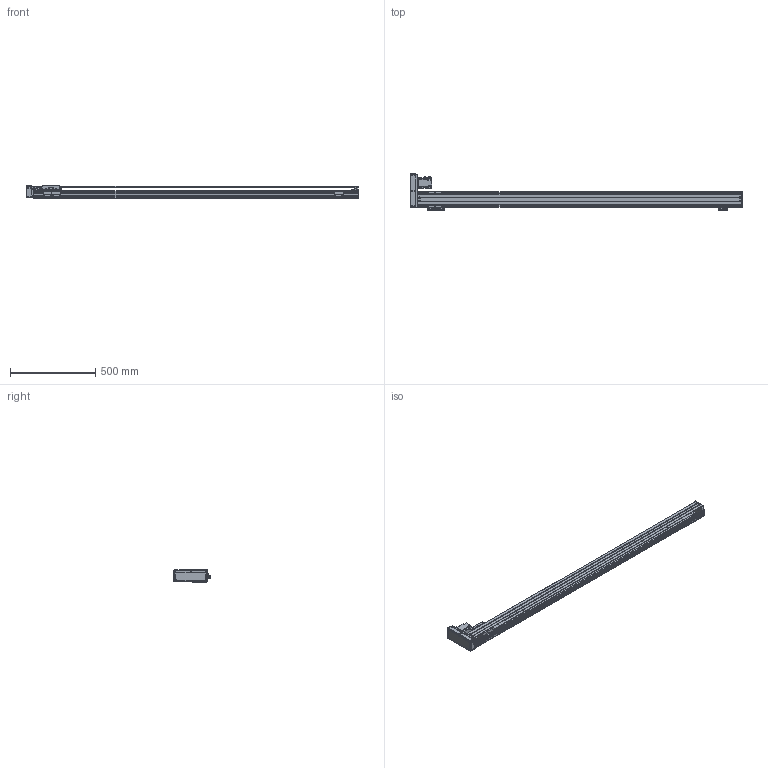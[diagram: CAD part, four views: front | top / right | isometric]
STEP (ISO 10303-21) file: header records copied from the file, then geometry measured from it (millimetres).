
FILE_DESCRIPTION(/* description */ (''),/* implementation_level */ '2;1');
FILE_NAME(/* name */ '\\192.168.0.160\disk1\HAN SHIN Master\B-설계부문\C-표준\B-2024년\BC02-표준도면\+로봇 개선표준도면\홈페이지 표준 도면\홈페이지 최종 작업 폴더\3D\HR\HR90\HG90병렬\좌병렬\HR90-L20-N1B-1700-R10.stp',/* time_stamp */ '2025-01-20T13:35:42+09:00',/* author */ ('user'),/* organization */ (''),/* preprocessor_version */ 'ST-DEVELOPER v18.1',/* originating_system */ 'Autodesk Inventor 2022',/* authorisation */ '');
FILE_SCHEMA (('CONFIG_CONTROL_DESIGN'));
Length unit declared in the file: millimetre
Products named in the file (22): HG90-L20-N1B-0500-R10; HR90 BASE 100W 1BLOCK; HR90 FRONT BLOCK; HR90 REAR BLOCK TENSION; HR90 REAR COVER-TENSION; HG4UPCOV002; HR120 SENSOR DOG; HG90STOPPER - 27L; HG90STOPPER - 20L; HC90-LR-MOTOR PLATE(200W)-사출; MOTOR PLATE-200W(MITSUBISHI); hg-kr23_; 화살표; HR65-LR-BELT COVER; HC90-BELT COVER-COVER3; M-5HL-4; HR90 TABLE; LMKE1520 NUT; SENSOR BRK(EE-SX674A); EE_SX674A; HR75-D-BELT COVER-COVER; HC90-BELT COVER-COVER2
Assembly tree (27 placements, depth 2):
  HG90-L20-N1B-0500-R10
    HR90 BASE 100W 1BLOCK
    HR90 FRONT BLOCK
    HR90 REAR BLOCK TENSION
    HR90 REAR COVER-TENSION
    HG4UPCOV002
    EE_SX674A  x3
    SENSOR BRK(EE-SX674A)  x3
    HR120 SENSOR DOG
    HG90STOPPER - 27L
    HG90STOPPER - 20L
    HC90-LR-MOTOR PLATE(200W)-사출
    MOTOR PLATE-200W(MITSUBISHI)
    hg-kr23_
    화살표  x2
    HC90-BELT COVER-COVER3  x2
    HR65-LR-BELT COVER
    M-5HL-4
    HR90 TABLE
    LMKE1520 NUT
    HR75-D-BELT COVER-COVER
    HC90-BELT COVER-COVER2
Bounding box: 1949 x 215 x 75 mm (x, y, z)
Volume: 3243177.3 mm3; surface area: 1388242 mm2
Topology: 27 solids, 27 shells, 1414 faces, 3703 edges, 2425 vertices
Faces by surface type: plane 689, cylinder 613, cone 104, sphere 8
Full cylindrical faces by diameter (mm): 1.8 x1, 2 x4, 2.459 x38, 2.5 x2, 3 x8, 3.242 x25, 3.4 x20, 3.5 x6, 4 x4, 4.134 x50, 4.5 x16, 4.917 x5, 5 x29, 5.5 x38, 5.6 x8, 5.8 x4, 5.9 x8, 6 x4, 6.5 x1, 7 x1, 8 x1, 9.5 x34, 14 x1, 15 x3, 17 x1, 20 x1, 22 x1, 25 x1, 28 x1, 32 x2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
Entity records: 39825 total; most frequent: CARTESIAN_POINT 7291, DIRECTION 6802, ORIENTED_EDGE 6292, EDGE_CURVE 3146, AXIS2_PLACEMENT_3D 2462, VERTEX_POINT 2093, LINE 1878, VECTOR 1878
